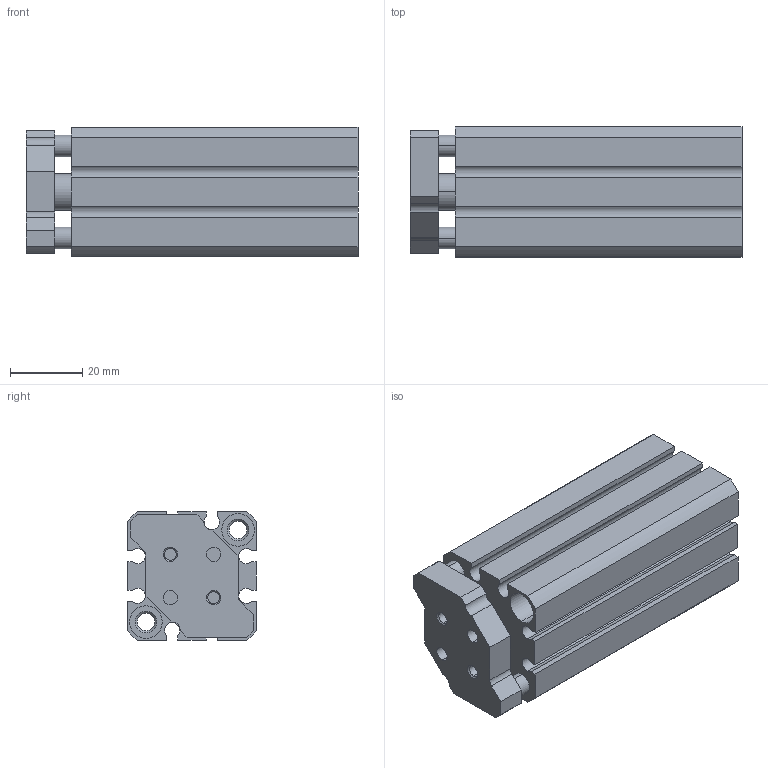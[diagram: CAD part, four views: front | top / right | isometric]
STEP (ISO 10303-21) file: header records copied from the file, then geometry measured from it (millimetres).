
FILE_DESCRIPTION (( 'STEP AP203' ), '1' );
FILE_NAME ('CCMG20-50.STEP', '2020-04-01T18:20:34', ( '' ), ( '' ), 'SwSTEP 2.0', 'SolidWorks 2019', '' );
FILE_SCHEMA (( 'CONFIG_CONTROL_DESIGN' ));
Length unit declared in the file: millimetre
Products named in the file (1): CCMG20-50
Bounding box: 92 x 36 x 36 mm (x, y, z)
Volume: 80685.7 mm3; surface area: 37933.7 mm2
Topology: 2 solids, 2 shells, 161 faces, 399 edges, 256 vertices
Faces by surface type: cylinder 77, plane 60, cone 24
Entity records: 4886 total; most frequent: DIRECTION 893, CARTESIAN_POINT 813, ORIENTED_EDGE 790, EDGE_CURVE 395, AXIS2_PLACEMENT_3D 336, VERTEX_POINT 256, LINE 221, VECTOR 221
